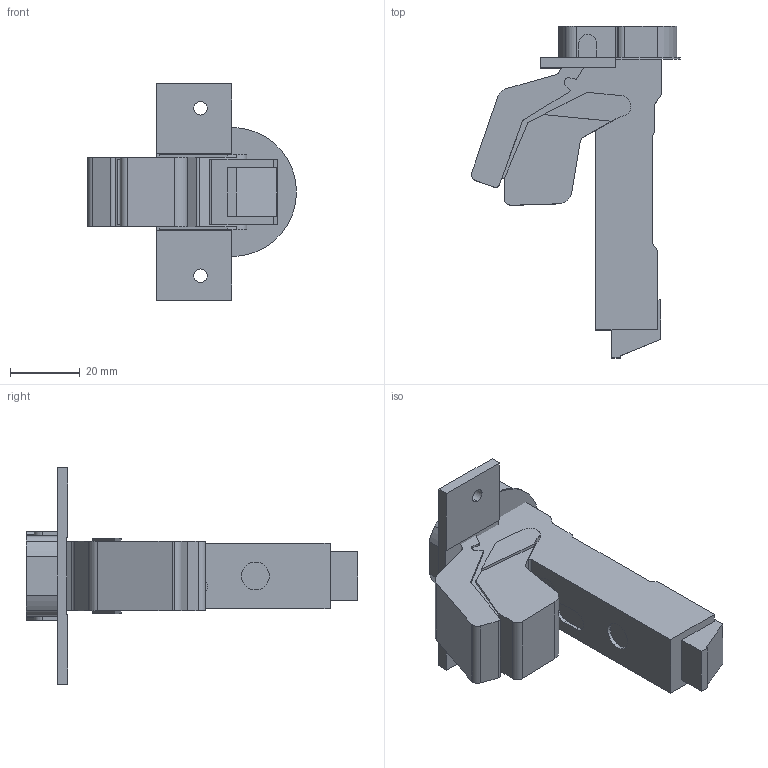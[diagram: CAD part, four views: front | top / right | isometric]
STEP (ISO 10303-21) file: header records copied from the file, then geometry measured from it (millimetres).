
FILE_DESCRIPTION (( 'STEP AP214' ), '1' );
FILE_NAME ('Scharnier-Mirro-M9_M-BB_geschlossen.STEP', '2014-02-21T08:43:43', ( '' ), ( '' ), 'SwSTEP 2.0', 'SolidWorks 2013', '' );
FILE_SCHEMA (( 'AUTOMOTIVE_DESIGN' ));
Length unit declared in the file: millimetre
Products named in the file (1): Scharnier-Mirro-M9_M-BB_geschlossen
Bounding box: 59.86 x 95.1 x 62 mm (x, y, z)
Volume: 59568.5 mm3; surface area: 16464.2 mm2
Topology: 2 solids, 2 shells, 145 faces, 409 edges, 272 vertices
Faces by surface type: plane 89, cylinder 56
Entity records: 4750 total; most frequent: CARTESIAN_POINT 827, ORIENTED_EDGE 818, DIRECTION 813, EDGE_CURVE 409, LINE 297, VECTOR 297, VERTEX_POINT 272, AXIS2_PLACEMENT_3D 258
